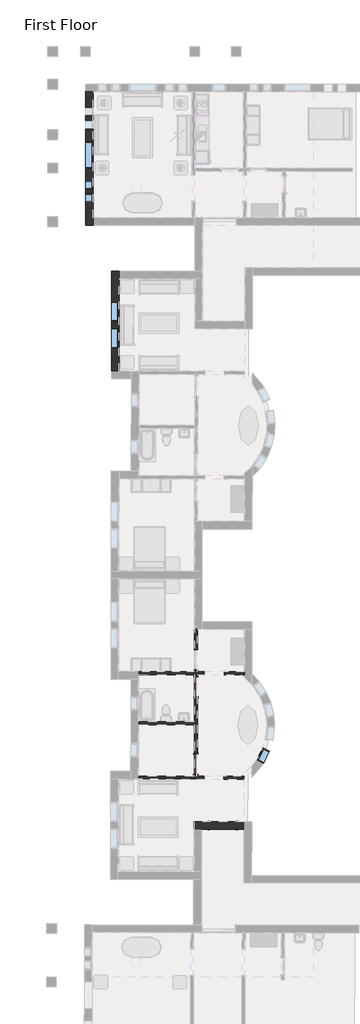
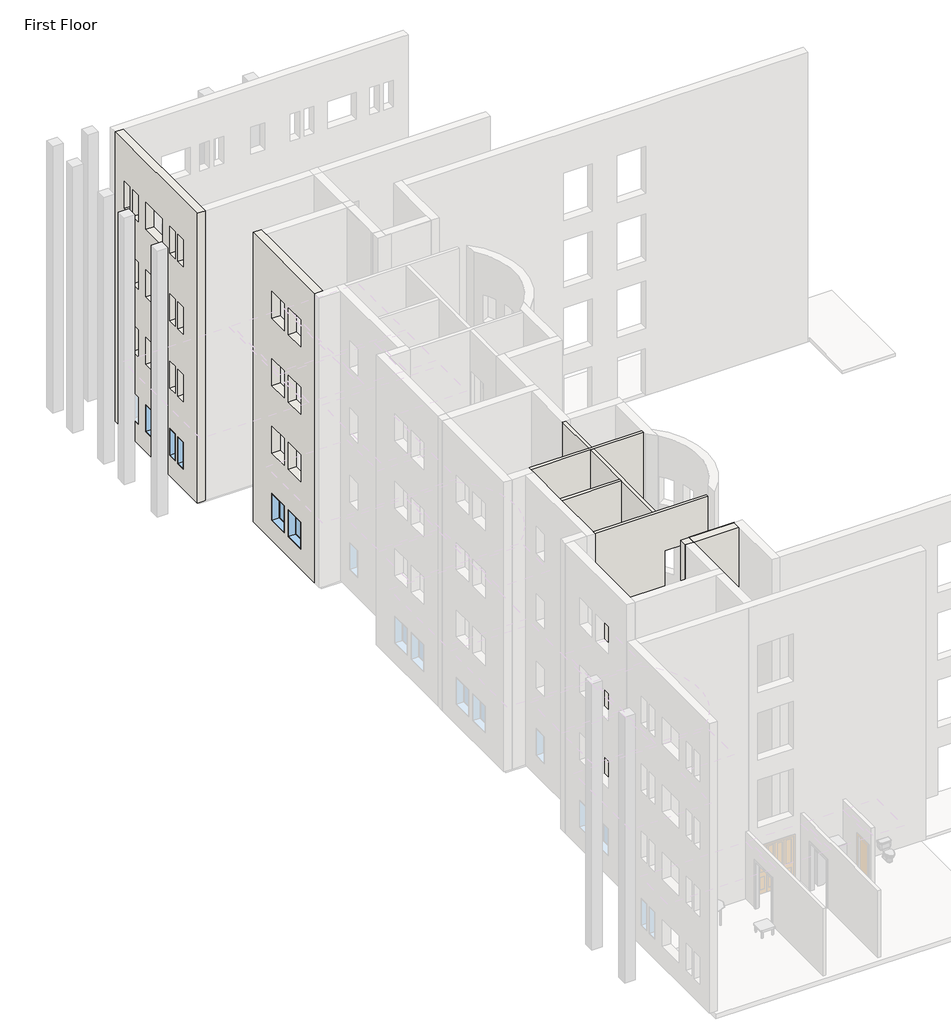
# One storey, part 6 of 22: 8 walls, 6 windows, 3 doors.
"""IFC4 building model written with IfcOpenShell, lengths in millimetres."""

from ifc_helpers import new_model, si_unit, origin, origin_with_axes, place, context, project, spatial, polyline, outline, extrude, faceted_brep, transform, mapped, element, save
from components import m_bifold_4_panel_1220_x_2134mm_cde6dea2, m_single_flush_0915_x_2134mm_ab9b6334, m_single_flush_0915_x_2134mm_08e0827a, m_fixed_0406_x_1220mm_57fee329, m_fixed_0610_x_1220mm_2c28ef1d, m_fixed_0915_x_1220mm_bde29121, m_fixed_1220_x_1220mm_8f5f8ad3

model = new_model("IFC4")

# Units and contexts
model_context = context("Model", 3, world=origin())
ifc_project = project(units=[si_unit("LENGTHUNIT", "METRE", prefix="MILLI")], contexts=[model_context])

# Site, building, storey
site = spatial("IfcSite", under=ifc_project)
building = spatial("IfcBuilding", under=site)
storey = spatial("IfcBuildingStorey", under=building, Name="First Floor", Elevation=0.0)

# Doors
placement = place(None, origin())
m_bifold_4_panel_1220_x_2134mm_shape = m_bifold_4_panel_1220_x_2134mm_cde6dea2(model_context)
element("IfcDoor", 1, ObjectType="M_Bifold-4 Panel : 1220 x 2134mm", at=placement, inside=storey, context=model_context, shape_type="MappedRepresentation", body=[
    mapped(m_bifold_4_panel_1220_x_2134mm_shape, transform((-28896.4341492, -31100.6581424, 0.0), x_axis=(-0.9999989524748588, 0.0014474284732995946, 0.0), y_axis=(-0.0014474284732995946, -0.9999989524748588, 0.0), z_axis=(0.0, 0.0, 1.0))),
])
m_single_flush_0915_x_2134mm_shape = m_single_flush_0915_x_2134mm_ab9b6334(model_context)
element("IfcDoor", 2, ObjectType="M_Single-Flush : 0915 x 2134mm", at=placement, inside=storey, context=model_context, shape_type="MappedRepresentation", body=[
    mapped(m_single_flush_0915_x_2134mm_shape, transform((-30135.3858371, -28302.8619177, 0.0), x_axis=(-0.0014474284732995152, -0.9999989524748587, 0.0), y_axis=(0.9999989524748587, -0.0014474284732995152, 0.0), z_axis=(0.0, 0.0, 1.0))),
])
m_single_flush_0915_x_2134mm_2_shape = m_single_flush_0915_x_2134mm_08e0827a(model_context)
element("IfcDoor", 3, ObjectType="M_Single-Flush : 0915 x 2134mm", at=placement, inside=storey, context=model_context, shape_type="MappedRepresentation", body=[
    mapped(m_single_flush_0915_x_2134mm_2_shape, transform((-30130.249999, -24754.6156346, 0.0), x_axis=(0.0014474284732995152, 0.9999989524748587, 0.0), y_axis=(-0.9999989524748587, 0.0014474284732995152, 0.0), z_axis=(0.0, 0.0, 1.0))),
])

# Walls
element("IfcWall", 4, ObjectType="Exterior - Brick on Mtl. Stud", at=placement, inside=storey, context=model_context, shape_type="Brep", body=[
    faceted_brep([(-35170.8416203, 2406.1188386, 0.0), (-35170.8416203, -3504.8811614, 0.0), (-35170.8416203, -3689.8811614, 0.0), (-35170.8416203, -3689.8811614, 13107.0), (-35170.8416203, 2406.1188386, 13107.0), (-35170.8416203, -1076.8811614, 915.0), (-35170.8416203, 143.1188386, 915.0), (-35170.8416203, 143.1188386, 2135.0), (-35170.8416203, -1076.8811614, 2135.0), (-35170.8416203, 701.1188386, 915.0), (-35170.8416203, 1107.1188386, 915.0), (-35170.8416203, 1107.1188386, 2135.0), (-35170.8416203, 701.1188386, 2135.0), (-35170.8416203, 1311.1188386, 915.0), (-35170.8416203, 1717.1188386, 915.0), (-35170.8416203, 1717.1188386, 2135.0), (-35170.8416203, 1311.1188386, 2135.0), (-35170.8416203, -1634.8811614, 915.0), (-35170.8416203, -1634.8811614, 2135.0), (-35170.8416203, -2040.8811614, 2135.0), (-35170.8416203, -2040.8811614, 915.0), (-35170.8416203, -2244.8811614, 915.0), (-35170.8416203, -2244.8811614, 2135.0), (-35170.8416203, -2650.8811614, 2135.0), (-35170.8416203, -2650.8811614, 915.0), (-35170.8416203, -1634.8811614, 10059.0), (-35170.8416203, -1634.8811614, 11279.0), (-35170.8416203, -2040.8811614, 11279.0), (-35170.8416203, -2040.8811614, 10059.0), (-35170.8416203, -2244.8811614, 10059.0), (-35170.8416203, -2244.8811614, 11279.0), (-35170.8416203, -2650.8811614, 11279.0), (-35170.8416203, -2650.8811614, 10059.0), (-35170.8416203, 701.1188386, 10059.0), (-35170.8416203, 1107.1188386, 10059.0), (-35170.8416203, 1107.1188386, 11279.0), (-35170.8416203, 701.1188386, 11279.0), (-35170.8416203, 1311.1188386, 10059.0), (-35170.8416203, 1717.1188386, 10059.0), (-35170.8416203, 1717.1188386, 11279.0), (-35170.8416203, 1311.1188386, 11279.0), (-35170.8416203, -1076.8811614, 10059.0), (-35170.8416203, 143.1188386, 10059.0), (-35170.8416203, 143.1188386, 11279.0), (-35170.8416203, -1076.8811614, 11279.0), (-35170.8416203, -1634.8811614, 3963.0), (-35170.8416203, -1634.8811614, 5183.0), (-35170.8416203, -2040.8811614, 5183.0), (-35170.8416203, -2040.8811614, 3963.0), (-35170.8416203, -2244.8811614, 3963.0), (-35170.8416203, -2244.8811614, 5183.0), (-35170.8416203, -2650.8811614, 5183.0), (-35170.8416203, -2650.8811614, 3963.0), (-35170.8416203, 701.1188386, 3963.0), (-35170.8416203, 1107.1188386, 3963.0), (-35170.8416203, 1107.1188386, 5183.0), (-35170.8416203, 701.1188386, 5183.0), (-35170.8416203, 1311.1188386, 3963.0), (-35170.8416203, 1717.1188386, 3963.0), (-35170.8416203, 1717.1188386, 5183.0), (-35170.8416203, 1311.1188386, 5183.0), (-35170.8416203, -1076.8811614, 3963.0), (-35170.8416203, 143.1188386, 3963.0), (-35170.8416203, 143.1188386, 5183.0), (-35170.8416203, -1076.8811614, 5183.0), (-35170.8416203, -1634.8811614, 7011.0), (-35170.8416203, -1634.8811614, 8231.0), (-35170.8416203, -2040.8811614, 8231.0), (-35170.8416203, -2040.8811614, 7011.0), (-35170.8416203, -2244.8811614, 7011.0), (-35170.8416203, -2244.8811614, 8231.0), (-35170.8416203, -2650.8811614, 8231.0), (-35170.8416203, -2650.8811614, 7011.0), (-35170.8416203, 701.1188386, 7011.0), (-35170.8416203, 1107.1188386, 7011.0), (-35170.8416203, 1107.1188386, 8231.0), (-35170.8416203, 701.1188386, 8231.0), (-35170.8416203, 1311.1188386, 7011.0), (-35170.8416203, 1717.1188386, 7011.0), (-35170.8416203, 1717.1188386, 8231.0), (-35170.8416203, 1311.1188386, 8231.0), (-35170.8416203, -1076.8811614, 7011.0), (-35170.8416203, 143.1188386, 7011.0), (-35170.8416203, 143.1188386, 8231.0), (-35170.8416203, -1076.8811614, 8231.0), (-34820.8416203, 2406.1188386, 0.0), (-34820.8416203, 2406.1188386, 13107.0), (-34820.8416203, -3339.8811614, 13107.0), (-34820.8416203, -3689.8811614, 13107.0), (-34820.8416203, -3689.8811614, 0.0), (-34820.8416203, -3504.8811614, 0.0), (-34820.8416203, -3339.8811614, 0.0), (-34820.8416203, -1076.8811614, 915.0), (-34820.8416203, -1076.8811614, 2135.0), (-34820.8416203, 143.1188386, 2135.0), (-34820.8416203, 143.1188386, 915.0), (-34820.8416203, 701.1188386, 915.0), (-34820.8416203, 701.1188386, 2135.0), (-34820.8416203, 1107.1188386, 2135.0), (-34820.8416203, 1107.1188386, 915.0), (-34820.8416203, 1311.1188386, 915.0), (-34820.8416203, 1311.1188386, 2135.0), (-34820.8416203, 1717.1188386, 2135.0), (-34820.8416203, 1717.1188386, 915.0), (-34820.8416203, -1634.8811614, 915.0), (-34820.8416203, -2040.8811614, 915.0), (-34820.8416203, -2040.8811614, 2135.0), (-34820.8416203, -1634.8811614, 2135.0), (-34820.8416203, -2244.8811614, 915.0), (-34820.8416203, -2650.8811614, 915.0), (-34820.8416203, -2650.8811614, 2135.0), (-34820.8416203, -2244.8811614, 2135.0), (-34820.8416203, -1634.8811614, 10059.0), (-34820.8416203, -2040.8811614, 10059.0), (-34820.8416203, -2040.8811614, 11279.0), (-34820.8416203, -1634.8811614, 11279.0), (-34820.8416203, -2244.8811614, 10059.0), (-34820.8416203, -2650.8811614, 10059.0), (-34820.8416203, -2650.8811614, 11279.0), (-34820.8416203, -2244.8811614, 11279.0), (-34820.8416203, 701.1188386, 10059.0), (-34820.8416203, 701.1188386, 11279.0), (-34820.8416203, 1107.1188386, 11279.0), (-34820.8416203, 1107.1188386, 10059.0), (-34820.8416203, 1311.1188386, 10059.0), (-34820.8416203, 1311.1188386, 11279.0), (-34820.8416203, 1717.1188386, 11279.0), (-34820.8416203, 1717.1188386, 10059.0), (-34820.8416203, -1076.8811614, 10059.0), (-34820.8416203, -1076.8811614, 11279.0), (-34820.8416203, 143.1188386, 11279.0), (-34820.8416203, 143.1188386, 10059.0), (-34820.8416203, -1634.8811614, 3963.0), (-34820.8416203, -2040.8811614, 3963.0), (-34820.8416203, -2040.8811614, 5183.0), (-34820.8416203, -1634.8811614, 5183.0), (-34820.8416203, -2244.8811614, 3963.0), (-34820.8416203, -2650.8811614, 3963.0), (-34820.8416203, -2650.8811614, 5183.0), (-34820.8416203, -2244.8811614, 5183.0), (-34820.8416203, 701.1188386, 3963.0), (-34820.8416203, 701.1188386, 5183.0), (-34820.8416203, 1107.1188386, 5183.0), (-34820.8416203, 1107.1188386, 3963.0), (-34820.8416203, 1311.1188386, 3963.0), (-34820.8416203, 1311.1188386, 5183.0), (-34820.8416203, 1717.1188386, 5183.0), (-34820.8416203, 1717.1188386, 3963.0), (-34820.8416203, -1076.8811614, 3963.0), (-34820.8416203, -1076.8811614, 5183.0), (-34820.8416203, 143.1188386, 5183.0), (-34820.8416203, 143.1188386, 3963.0), (-34820.8416203, -1634.8811614, 7011.0), (-34820.8416203, -2040.8811614, 7011.0), (-34820.8416203, -2040.8811614, 8231.0), (-34820.8416203, -1634.8811614, 8231.0), (-34820.8416203, -2244.8811614, 7011.0), (-34820.8416203, -2650.8811614, 7011.0), (-34820.8416203, -2650.8811614, 8231.0), (-34820.8416203, -2244.8811614, 8231.0), (-34820.8416203, 701.1188386, 7011.0), (-34820.8416203, 701.1188386, 8231.0), (-34820.8416203, 1107.1188386, 8231.0), (-34820.8416203, 1107.1188386, 7011.0), (-34820.8416203, 1311.1188386, 7011.0), (-34820.8416203, 1311.1188386, 8231.0), (-34820.8416203, 1717.1188386, 8231.0), (-34820.8416203, 1717.1188386, 7011.0), (-34820.8416203, -1076.8811614, 7011.0), (-34820.8416203, -1076.8811614, 8231.0), (-34820.8416203, 143.1188386, 8231.0), (-34820.8416203, 143.1188386, 7011.0), (-34985.8416203, 2406.1188386, 0.0), (-34985.8416203, -3689.8811614, 0.0), (-34985.8416203, -3504.8811614, 0.0)], [[[0, 1, 2, 3, 4], [5, 6, 7, 8], [9, 10, 11, 12], [13, 14, 15, 16], [17, 18, 19, 20], [21, 22, 23, 24], [25, 26, 27, 28], [29, 30, 31, 32], [33, 34, 35, 36], [37, 38, 39, 40], [41, 42, 43, 44], [45, 46, 47, 48], [49, 50, 51, 52], [53, 54, 55, 56], [57, 58, 59, 60], [61, 62, 63, 64], [65, 66, 67, 68], [69, 70, 71, 72], [73, 74, 75, 76], [77, 78, 79, 80], [81, 82, 83, 84]], [[85, 86, 87, 88, 89, 90, 91], [92, 93, 94, 95], [96, 97, 98, 99], [100, 101, 102, 103], [104, 105, 106, 107], [108, 109, 110, 111], [112, 113, 114, 115], [116, 117, 118, 119], [120, 121, 122, 123], [124, 125, 126, 127], [128, 129, 130, 131], [132, 133, 134, 135], [136, 137, 138, 139], [140, 141, 142, 143], [144, 145, 146, 147], [148, 149, 150, 151], [152, 153, 154, 155], [156, 157, 158, 159], [160, 161, 162, 163], [164, 165, 166, 167], [168, 169, 170, 171]], [[4, 3, 88, 87, 86]], [[0, 4, 86, 85, 172]], [[3, 2, 173, 89, 88]], [[93, 92, 5, 8]], [[94, 93, 8, 7]], [[95, 94, 7, 6]], [[92, 95, 6, 5]], [[97, 96, 9, 12]], [[98, 97, 12, 11]], [[99, 98, 11, 10]], [[96, 99, 10, 9]], [[101, 100, 13, 16]], [[102, 101, 16, 15]], [[103, 102, 15, 14]], [[100, 103, 14, 13]], [[18, 17, 104, 107]], [[19, 18, 107, 106]], [[20, 19, 106, 105]], [[17, 20, 105, 104]], [[22, 21, 108, 111]], [[23, 22, 111, 110]], [[24, 23, 110, 109]], [[21, 24, 109, 108]], [[90, 89, 173, 174]], [[1, 0, 172, 174]], [[2, 1, 174, 173]], [[26, 25, 112, 115]], [[27, 26, 115, 114]], [[28, 27, 114, 113]], [[25, 28, 113, 112]], [[30, 29, 116, 119]], [[31, 30, 119, 118]], [[32, 31, 118, 117]], [[29, 32, 117, 116]], [[121, 120, 33, 36]], [[122, 121, 36, 35]], [[123, 122, 35, 34]], [[120, 123, 34, 33]], [[125, 124, 37, 40]], [[126, 125, 40, 39]], [[127, 126, 39, 38]], [[124, 127, 38, 37]], [[129, 128, 41, 44]], [[130, 129, 44, 43]], [[131, 130, 43, 42]], [[128, 131, 42, 41]], [[46, 45, 132, 135]], [[47, 46, 135, 134]], [[48, 47, 134, 133]], [[45, 48, 133, 132]], [[50, 49, 136, 139]], [[51, 50, 139, 138]], [[52, 51, 138, 137]], [[49, 52, 137, 136]], [[141, 140, 53, 56]], [[142, 141, 56, 55]], [[143, 142, 55, 54]], [[140, 143, 54, 53]], [[145, 144, 57, 60]], [[146, 145, 60, 59]], [[147, 146, 59, 58]], [[144, 147, 58, 57]], [[149, 148, 61, 64]], [[150, 149, 64, 63]], [[151, 150, 63, 62]], [[148, 151, 62, 61]], [[66, 65, 152, 155]], [[67, 66, 155, 154]], [[68, 67, 154, 153]], [[65, 68, 153, 152]], [[70, 69, 156, 159]], [[71, 70, 159, 158]], [[72, 71, 158, 157]], [[69, 72, 157, 156]], [[161, 160, 73, 76]], [[162, 161, 76, 75]], [[163, 162, 75, 74]], [[160, 163, 74, 73]], [[165, 164, 77, 80]], [[166, 165, 80, 79]], [[167, 166, 79, 78]], [[164, 167, 78, 77]], [[169, 168, 81, 84]], [[170, 169, 84, 83]], [[171, 170, 83, 82]], [[168, 171, 82, 81]], [[172, 85, 91, 90, 174]]]),
])
element("IfcWall", 5, ObjectType="Exterior - Brick on Mtl. Stud", at=placement, inside=storey, context=model_context, shape_type="Brep", body=[
    faceted_brep([(-33644.3964507, -10344.7640643, 0.0), (-33638.2854077, -6122.7684869, 0.0), (-33638.046582, -5957.7686598, 0.0), (-33637.7788078, -5772.7688535, 0.0), (-33637.7788078, -5772.7688535, 13107.0), (-33638.2854077, -6122.7684869, 13107.0), (-33644.3964507, -10344.7640643, 13107.0), (-33641.5610831, -8385.8661163, 915.0), (-33642.8854802, -9300.8651578, 915.0), (-33642.8854802, -9300.8651578, 2135.0), (-33641.5610831, -8385.8661163, 2135.0), (-33639.7963783, -7166.6673934, 915.0), (-33641.1207754, -8081.6664349, 915.0), (-33641.1207754, -8081.6664349, 2135.0), (-33639.7963783, -7166.6673934, 2135.0), (-33639.7963783, -7166.6673934, 10059.0), (-33641.1207754, -8081.6664349, 10059.0), (-33641.1207754, -8081.6664349, 11279.0), (-33639.7963783, -7166.6673934, 11279.0), (-33641.5610831, -8385.8661163, 10059.0), (-33642.8854802, -9300.8651578, 10059.0), (-33642.8854802, -9300.8651578, 11279.0), (-33641.5610831, -8385.8661163, 11279.0), (-33639.7963783, -7166.6673934, 3963.0), (-33641.1207754, -8081.6664349, 3963.0), (-33641.1207754, -8081.6664349, 5183.0), (-33639.7963783, -7166.6673934, 5183.0), (-33641.5610831, -8385.8661163, 3963.0), (-33642.8854802, -9300.8651578, 3963.0), (-33642.8854802, -9300.8651578, 5183.0), (-33641.5610831, -8385.8661163, 5183.0), (-33639.7963783, -7166.6673934, 7011.0), (-33641.1207754, -8081.6664349, 7011.0), (-33641.1207754, -8081.6664349, 8231.0), (-33639.7963783, -7166.6673934, 8231.0), (-33641.5610831, -8385.8661163, 7011.0), (-33642.8854802, -9300.8651578, 7011.0), (-33642.8854802, -9300.8651578, 8231.0), (-33641.5610831, -8385.8661163, 8231.0), (-33994.3960841, -10344.2574643, 0.0), (-33994.3960841, -10344.2574643, 13107.0), (-33987.7784411, -5772.2622536, 13107.0), (-33987.7784411, -5772.2622536, 0.0), (-33988.0462154, -5957.2620598, 0.0), (-33991.5607165, -8385.3595163, 915.0), (-33991.5607165, -8385.3595163, 2135.0), (-33992.8851135, -9300.3585578, 2135.0), (-33992.8851135, -9300.3585578, 915.0), (-33989.7960117, -7166.1607934, 915.0), (-33989.7960117, -7166.1607934, 2135.0), (-33991.1204087, -8081.1598349, 2135.0), (-33991.1204087, -8081.1598349, 915.0), (-33989.7960117, -7166.1607934, 10059.0), (-33989.7960117, -7166.1607934, 11279.0), (-33991.1204087, -8081.1598349, 11279.0), (-33991.1204087, -8081.1598349, 10059.0), (-33991.5607165, -8385.3595163, 10059.0), (-33991.5607165, -8385.3595163, 11279.0), (-33992.8851135, -9300.3585578, 11279.0), (-33992.8851135, -9300.3585578, 10059.0), (-33989.7960117, -7166.1607934, 3963.0), (-33989.7960117, -7166.1607934, 5183.0), (-33991.1204087, -8081.1598349, 5183.0), (-33991.1204087, -8081.1598349, 3963.0), (-33991.5607165, -8385.3595163, 3963.0), (-33991.5607165, -8385.3595163, 5183.0), (-33992.8851135, -9300.3585578, 5183.0), (-33992.8851135, -9300.3585578, 3963.0), (-33989.7960117, -7166.1607934, 7011.0), (-33989.7960117, -7166.1607934, 8231.0), (-33991.1204087, -8081.1598349, 8231.0), (-33991.1204087, -8081.1598349, 7011.0), (-33991.5607165, -8385.3595163, 7011.0), (-33991.5607165, -8385.3595163, 8231.0), (-33992.8851135, -9300.3585578, 8231.0), (-33992.8851135, -9300.3585578, 7011.0), (-33809.3962779, -10344.5252386, 0.0), (-33802.7786349, -5772.5300278, 0.0), (-33803.0464092, -5957.5298341, 0.0)], [[[0, 1, 2, 3, 4, 5, 6], [7, 8, 9, 10], [11, 12, 13, 14], [15, 16, 17, 18], [19, 20, 21, 22], [23, 24, 25, 26], [27, 28, 29, 30], [31, 32, 33, 34], [35, 36, 37, 38]], [[39, 40, 41, 42, 43], [44, 45, 46, 47], [48, 49, 50, 51], [52, 53, 54, 55], [56, 57, 58, 59], [60, 61, 62, 63], [64, 65, 66, 67], [68, 69, 70, 71], [72, 73, 74, 75]], [[6, 5, 4, 41, 40]], [[0, 6, 40, 39, 76]], [[4, 3, 77, 42, 41]], [[45, 44, 7, 10]], [[46, 45, 10, 9]], [[47, 46, 9, 8]], [[44, 47, 8, 7]], [[49, 48, 11, 14]], [[50, 49, 14, 13]], [[51, 50, 13, 12]], [[48, 51, 12, 11]], [[76, 39, 43, 78]], [[3, 2, 78, 77]], [[78, 43, 42, 77]], [[2, 1, 0, 76, 78]], [[53, 52, 15, 18]], [[54, 53, 18, 17]], [[55, 54, 17, 16]], [[52, 55, 16, 15]], [[57, 56, 19, 22]], [[58, 57, 22, 21]], [[59, 58, 21, 20]], [[56, 59, 20, 19]], [[61, 60, 23, 26]], [[62, 61, 26, 25]], [[63, 62, 25, 24]], [[60, 63, 24, 23]], [[65, 64, 27, 30]], [[66, 65, 30, 29]], [[67, 66, 29, 28]], [[64, 67, 28, 27]], [[69, 68, 31, 34]], [[70, 69, 34, 33]], [[71, 70, 33, 32]], [[68, 71, 32, 31]], [[73, 72, 35, 38]], [[74, 73, 38, 37]], [[75, 74, 37, 36]], [[72, 75, 36, 35]]]),
])
element("IfcWall", 6, ObjectType="Exterior - Brick on Mtl. Stud", at=placement, inside=storey, context=model_context, shape_type="Brep", body=[
    faceted_brep([(-27927.6813484, -30929.862752, 0.0), (-27928.1859187, -30929.8612914, 0.0), (-30213.6717698, -30923.245116, 0.0), (-30213.6717698, -30923.245116, 13107.0), (-27928.1859187, -30929.8612914, 13107.0), (-27927.6813484, -30929.862752, 13107.0), (-27928.6945472, -31279.8612855, 0.0), (-27928.6945472, -31279.8612855, 13107.0), (-29864.6864352, -31274.2568483, 13107.0), (-30214.6849687, -31273.2436495, 13107.0), (-30214.6849687, -31273.2436495, 0.0), (-29864.6864352, -31274.2568483, 0.0)], [[[0, 1, 2, 3, 4, 5]], [[6, 7, 8, 9, 10, 11]], [[2, 1, 0, 6, 11, 10]], [[5, 4, 3, 9, 8, 7]], [[0, 5, 7, 6]], [[3, 2, 10, 9]]]),
])
element("IfcWall", 7, ObjectType="Exterior - Brick on Mtl. Stud", at=placement, inside=storey, context=model_context, shape_type="Brep", body=[
    faceted_brep([(-27928.6864352, -31277.0590728, 13107.0), (-29864.6864352, -31274.2568483, 13107.0), (-29864.6864352, -31274.2568483, 0.0), (-29506.6868102, -31274.7750277, 0.0), (-29506.6868102, -31274.7750277, 2134.0), (-28286.6880882, -31276.5408905, 2134.0), (-28286.6880882, -31276.5408905, 0.0), (-27928.6864352, -31277.0590728, 0.0), (-29506.6868102, -31274.7750277, 9144.0), (-29506.6868102, -31274.7750277, 11278.0), (-28286.6880882, -31276.5408905, 11278.0), (-28286.6880882, -31276.5408905, 9144.0), (-29506.6868102, -31274.7750277, 3048.0), (-29506.6868102, -31274.7750277, 5182.0), (-28286.6880882, -31276.5408905, 5182.0), (-28286.6880882, -31276.5408905, 3048.0), (-29506.6868102, -31274.7750277, 6096.0), (-29506.6868102, -31274.7750277, 8230.0), (-28286.6880882, -31276.5408905, 8230.0), (-28286.6880882, -31276.5408905, 6096.0), (-29863.6732353, -30924.2579482, 13107.0), (-27927.6732353, -30927.0601727, 13107.0), (-27927.6732353, -30927.0601727, 0.0), (-28286.1814882, -30926.5412571, 0.0), (-28286.1814882, -30926.5412571, 2134.0), (-29506.1802102, -30924.7753944, 2134.0), (-29506.1802102, -30924.7753944, 0.0), (-29863.6732353, -30924.2579482, 0.0), (-29506.1802102, -30924.7753944, 9144.0), (-28286.1814882, -30926.5412571, 9144.0), (-28286.1814882, -30926.5412571, 11278.0), (-29506.1802102, -30924.7753944, 11278.0), (-29506.1802102, -30924.7753944, 3048.0), (-28286.1814882, -30926.5412571, 3048.0), (-28286.1814882, -30926.5412571, 5182.0), (-29506.1802102, -30924.7753944, 5182.0), (-29506.1802102, -30924.7753944, 6096.0), (-28286.1814882, -30926.5412571, 6096.0), (-28286.1814882, -30926.5412571, 8230.0), (-29506.1802102, -30924.7753944, 8230.0), (-27927.6813484, -30929.862752, 13107.0), (-29506.4190359, -31089.7752215, 0.0), (-28286.4203139, -31091.5410842, 0.0), (-29864.1508867, -31089.2574297, 0.0), (-27928.1508867, -31092.0596542, 0.0), (-27927.6813484, -30929.862752, 0.0)], [[[0, 1, 2, 3, 4, 5, 6, 7], [8, 9, 10, 11], [12, 13, 14, 15], [16, 17, 18, 19]], [[20, 21, 22, 23, 24, 25, 26, 27], [28, 29, 30, 31], [32, 33, 34, 35], [36, 37, 38, 39]], [[1, 0, 40, 21, 20]], [[25, 4, 3, 41, 26]], [[4, 25, 24, 5]], [[5, 24, 23, 42, 6]], [[2, 43, 41, 3]], [[44, 7, 6, 42]], [[9, 8, 28, 31]], [[10, 9, 31, 30]], [[11, 10, 30, 29]], [[8, 11, 29, 28]], [[13, 12, 32, 35]], [[14, 13, 35, 34]], [[15, 14, 34, 33]], [[12, 15, 33, 32]], [[17, 16, 36, 39]], [[18, 17, 39, 38]], [[19, 18, 38, 37]], [[16, 19, 37, 36]], [[0, 7, 44, 45, 22, 21, 40]], [[2, 1, 20, 27, 43]], [[43, 27, 26, 41]], [[22, 45, 44, 42, 23]]]),
])
element("IfcWall", 8, ObjectType="Interior - 135mm Partition (2-hr)", at=placement, inside=storey, context=model_context, shape_type="Brep", body=[
    faceted_brep([(-28833.7610604, -24210.4916396, 2134.0), (-28833.7610604, -24210.4916396, 0.0), (-27918.4620192, -24211.8164709, 0.0), (-27918.4620192, -24211.8164709, 13107.0), (-30061.7097741, -24208.7142698, 13107.0), (-30197.2096321, -24208.5181432, 13107.0), (-32750.056958, -24204.8230755, 13107.0), (-32750.056958, -24204.8230755, 0.0), (-30197.2096321, -24208.5181432, 0.0), (-30061.7097741, -24208.7142698, 0.0), (-29748.7601019, -24209.1672425, 0.0), (-29748.7601019, -24209.1672425, 2134.0), (-29748.7601019, -24209.1672425, 11278.0), (-28833.7610604, -24210.4916396, 11278.0), (-28833.7610604, -24210.4916396, 9144.0), (-29748.7601019, -24209.1672425, 9144.0), (-29748.7601019, -24209.1672425, 5182.0), (-28833.7610604, -24210.4916396, 5182.0), (-28833.7610604, -24210.4916396, 3048.0), (-29748.7601019, -24209.1672425, 3048.0), (-29748.7601019, -24209.1672425, 8230.0), (-28833.7610604, -24210.4916396, 8230.0), (-28833.7610604, -24210.4916396, 6096.0), (-29748.7601019, -24209.1672425, 6096.0), (-27918.2658926, -24076.3166128, 0.0), (-28833.5649338, -24074.9917815, 0.0), (-28833.5649338, -24074.9917815, 2134.0), (-29748.5639753, -24073.6673845, 2134.0), (-29748.5639753, -24073.6673845, 0.0), (-30061.5136475, -24073.2144117, 0.0), (-30197.0135056, -24073.0182852, 0.0), (-32749.8608314, -24069.3232174, 0.0), (-32749.8608314, -24069.3232174, 13107.0), (-30197.0135056, -24073.0182852, 13107.0), (-30061.5136475, -24073.2144117, 13107.0), (-27918.2658926, -24076.3166128, 13107.0), (-29748.5639753, -24073.6673845, 11278.0), (-29748.5639753, -24073.6673845, 9144.0), (-28833.5649338, -24074.9917815, 9144.0), (-28833.5649338, -24074.9917815, 11278.0), (-29748.5639753, -24073.6673845, 5182.0), (-29748.5639753, -24073.6673845, 3048.0), (-28833.5649338, -24074.9917815, 3048.0), (-28833.5649338, -24074.9917815, 5182.0), (-29748.5639753, -24073.6673845, 8230.0), (-29748.5639753, -24073.6673845, 6096.0), (-28833.5649338, -24074.9917815, 6096.0), (-28833.5649338, -24074.9917815, 8230.0)], [[[0, 1, 2, 3, 4, 5, 6, 7, 8, 9, 10, 11], [12, 13, 14, 15], [16, 17, 18, 19], [20, 21, 22, 23]], [[24, 25, 26, 27, 28, 29, 30, 31, 32, 33, 34, 35], [36, 37, 38, 39], [40, 41, 42, 43], [44, 45, 46, 47]], [[2, 1, 25, 24]], [[10, 9, 8, 7, 31, 30, 29, 28]], [[6, 5, 4, 3, 35, 34, 33, 32]], [[7, 6, 32, 31]], [[3, 2, 24, 35]], [[28, 27, 11, 10]], [[26, 25, 1, 0]], [[27, 26, 0, 11]], [[37, 36, 12, 15]], [[38, 37, 15, 14]], [[39, 38, 14, 13]], [[36, 39, 13, 12]], [[41, 40, 16, 19]], [[42, 41, 19, 18]], [[43, 42, 18, 17]], [[40, 43, 17, 16]], [[45, 44, 20, 23]], [[46, 45, 23, 22]], [[47, 46, 22, 21]], [[44, 47, 21, 20]]]),
])
element("IfcWall", 9, ObjectType="Interior - 135mm Partition (2-hr)", at=placement, inside=storey, context=model_context, shape_type="Brep", body=[
    faceted_brep([(-28840.6681891, -28982.4866408, 2134.0), (-28840.6681891, -28982.4866408, 0.0), (-27925.3691479, -28983.8114721, 0.0), (-27925.3691479, -28983.8114721, 13107.0), (-32756.9640866, -28976.8180767, 13107.0), (-32756.9640866, -28976.8180767, 0.0), (-29755.6672306, -28981.1622438, 0.0), (-29755.6672306, -28981.1622438, 2134.0), (-29755.6672306, -28981.1622438, 11278.0), (-28840.6681891, -28982.4866408, 11278.0), (-28840.6681891, -28982.4866408, 9144.0), (-29755.6672306, -28981.1622438, 9144.0), (-29755.6672306, -28981.1622438, 5182.0), (-28840.6681891, -28982.4866408, 5182.0), (-28840.6681891, -28982.4866408, 3048.0), (-29755.6672306, -28981.1622438, 3048.0), (-29755.6672306, -28981.1622438, 8230.0), (-28840.6681891, -28982.4866408, 8230.0), (-28840.6681891, -28982.4866408, 6096.0), (-29755.6672306, -28981.1622438, 6096.0), (-27925.1730213, -28848.311614, 0.0), (-28840.4720625, -28846.9867827, 0.0), (-28840.4720625, -28846.9867827, 2134.0), (-29755.471104, -28845.6623857, 2134.0), (-29755.471104, -28845.6623857, 0.0), (-30068.4207762, -28845.209413, 0.0), (-30203.9206342, -28845.0132864, 0.0), (-32756.7679601, -28841.3182186, 0.0), (-32756.7679601, -28841.3182186, 13107.0), (-30203.9206342, -28845.0132864, 13107.0), (-30068.4207762, -28845.209413, 13107.0), (-27925.1730213, -28848.311614, 13107.0), (-29755.471104, -28845.6623857, 11278.0), (-29755.471104, -28845.6623857, 9144.0), (-28840.4720625, -28846.9867827, 9144.0), (-28840.4720625, -28846.9867827, 11278.0), (-29755.471104, -28845.6623857, 5182.0), (-29755.471104, -28845.6623857, 3048.0), (-28840.4720625, -28846.9867827, 3048.0), (-28840.4720625, -28846.9867827, 5182.0), (-29755.471104, -28845.6623857, 8230.0), (-29755.471104, -28845.6623857, 6096.0), (-28840.4720625, -28846.9867827, 6096.0), (-28840.4720625, -28846.9867827, 8230.0)], [[[0, 1, 2, 3, 4, 5, 6, 7], [8, 9, 10, 11], [12, 13, 14, 15], [16, 17, 18, 19]], [[20, 21, 22, 23, 24, 25, 26, 27, 28, 29, 30, 31], [32, 33, 34, 35], [36, 37, 38, 39], [40, 41, 42, 43]], [[6, 5, 27, 26, 25, 24]], [[2, 1, 21, 20]], [[4, 3, 31, 30, 29, 28]], [[5, 4, 28, 27]], [[3, 2, 20, 31]], [[24, 23, 7, 6]], [[22, 21, 1, 0]], [[23, 22, 0, 7]], [[33, 32, 8, 11]], [[34, 33, 11, 10]], [[35, 34, 10, 9]], [[32, 35, 9, 8]], [[37, 36, 12, 15]], [[38, 37, 15, 14]], [[39, 38, 14, 13]], [[36, 39, 13, 12]], [[41, 40, 16, 19]], [[42, 41, 19, 18]], [[43, 42, 18, 17]], [[40, 43, 17, 16]]]),
])
element("IfcWall", 10, ObjectType="Interior - 135mm Partition (2-hr)", at=placement, inside=storey, context=model_context, shape_type="Brep", body=[
    faceted_brep([(-30194.2007902, -22129.7703208, 13107.0), (-30194.2007902, -22129.7703208, 0.0), (-30195.5718668, -23077.0193285, 0.0), (-30195.5718668, -23077.0193285, 2134.0), (-30196.8962639, -23992.01837, 2134.0), (-30196.8962639, -23992.01837, 0.0), (-30197.0135056, -24073.0182852, 0.0), (-30197.0135056, -24073.0182852, 13107.0), (-30196.8962639, -23992.01837, 9144.0), (-30195.5718668, -23077.0193285, 9144.0), (-30195.5718668, -23077.0193285, 11278.0), (-30196.8962639, -23992.01837, 11278.0), (-30196.8962639, -23992.01837, 3048.0), (-30195.5718668, -23077.0193285, 3048.0), (-30195.5718668, -23077.0193285, 5182.0), (-30196.8962639, -23992.01837, 5182.0), (-30196.8962639, -23992.01837, 6096.0), (-30195.5718668, -23077.0193285, 6096.0), (-30195.5718668, -23077.0193285, 8230.0), (-30196.8962639, -23992.01837, 8230.0), (-30058.7009321, -22129.9664473, 0.0), (-30058.7009321, -22129.9664473, 13107.0), (-30061.5136475, -24073.2144117, 13107.0), (-30061.5136475, -24073.2144117, 0.0), (-30061.3964058, -23992.2144966, 0.0), (-30061.3964058, -23992.2144966, 2134.0), (-30060.0720088, -23077.2154551, 2134.0), (-30060.0720088, -23077.2154551, 0.0), (-30060.0720088, -23077.2154551, 9144.0), (-30061.3964058, -23992.2144966, 9144.0), (-30061.3964058, -23992.2144966, 11278.0), (-30060.0720088, -23077.2154551, 11278.0), (-30060.0720088, -23077.2154551, 3048.0), (-30061.3964058, -23992.2144966, 3048.0), (-30061.3964058, -23992.2144966, 5182.0), (-30060.0720088, -23077.2154551, 5182.0), (-30060.0720088, -23077.2154551, 6096.0), (-30061.3964058, -23992.2144966, 6096.0), (-30061.3964058, -23992.2144966, 8230.0), (-30060.0720088, -23077.2154551, 8230.0)], [[[0, 1, 2, 3, 4, 5, 6, 7], [8, 9, 10, 11], [12, 13, 14, 15], [16, 17, 18, 19]], [[20, 21, 22, 23, 24, 25, 26, 27], [28, 29, 30, 31], [32, 33, 34, 35], [36, 37, 38, 39]], [[1, 20, 27, 2]], [[5, 24, 23, 6]], [[21, 0, 7, 22]], [[1, 0, 21, 20]], [[7, 6, 23, 22]], [[4, 25, 24, 5]], [[25, 4, 3, 26]], [[26, 3, 2, 27]], [[29, 28, 9, 8]], [[30, 29, 8, 11]], [[31, 30, 11, 10]], [[28, 31, 10, 9]], [[33, 32, 13, 12]], [[34, 33, 12, 15]], [[35, 34, 15, 14]], [[32, 35, 14, 13]], [[37, 36, 17, 16]], [[38, 37, 16, 19]], [[39, 38, 19, 18]], [[36, 39, 18, 17]]]),
    faceted_brep([(-30203.9206342, -28845.0132864, 0.0), (-30203.9206342, -28845.0132864, 13107.0), (-30200.5406716, -26509.8657325, 13107.0), (-30200.3445451, -26374.3658745, 13107.0), (-30197.2096321, -24208.5181432, 13107.0), (-30197.2096321, -24208.5181432, 0.0), (-30197.3377295, -24297.0180505, 0.0), (-30197.3377295, -24297.0180505, 2134.0), (-30198.6621266, -25212.0170921, 2134.0), (-30198.6621266, -25212.0170921, 0.0), (-30200.3445451, -26374.3658745, 0.0), (-30200.5406716, -26509.8657325, 0.0), (-30202.4735676, -27845.2643337, 0.0), (-30202.4735676, -27845.2643337, 2134.0), (-30203.7979647, -28760.2633752, 2134.0), (-30203.7979647, -28760.2633752, 0.0), (-30203.7979647, -28760.2633752, 9144.0), (-30202.4735676, -27845.2643337, 9144.0), (-30202.4735676, -27845.2643337, 11278.0), (-30203.7979647, -28760.2633752, 11278.0), (-30198.6621266, -25212.0170921, 9144.0), (-30197.3377295, -24297.0180505, 9144.0), (-30197.3377295, -24297.0180505, 11278.0), (-30198.6621266, -25212.0170921, 11278.0), (-30203.7979647, -28760.2633752, 3048.0), (-30202.4735676, -27845.2643337, 3048.0), (-30202.4735676, -27845.2643337, 5182.0), (-30203.7979647, -28760.2633752, 5182.0), (-30198.6621266, -25212.0170921, 3048.0), (-30197.3377295, -24297.0180505, 3048.0), (-30197.3377295, -24297.0180505, 5182.0), (-30198.6621266, -25212.0170921, 5182.0), (-30203.7979647, -28760.2633752, 6096.0), (-30202.4735676, -27845.2643337, 6096.0), (-30202.4735676, -27845.2643337, 8230.0), (-30203.7979647, -28760.2633752, 8230.0), (-30198.6621266, -25212.0170921, 6096.0), (-30197.3377295, -24297.0180505, 6096.0), (-30197.3377295, -24297.0180505, 8230.0), (-30198.6621266, -25212.0170921, 8230.0), (-30068.4207762, -28845.209413, 13107.0), (-30068.4207762, -28845.209413, 0.0), (-30068.2981066, -28760.4595017, 0.0), (-30068.2981066, -28760.4595017, 2134.0), (-30066.9737096, -27845.4604602, 2134.0), (-30066.9737096, -27845.4604602, 0.0), (-30063.1622685, -25212.2132186, 0.0), (-30063.1622685, -25212.2132186, 2134.0), (-30061.8378715, -24297.2141771, 2134.0), (-30061.8378715, -24297.2141771, 0.0), (-30061.7097741, -24208.7142698, 0.0), (-30061.7097741, -24208.7142698, 13107.0), (-30066.9737096, -27845.4604602, 9144.0), (-30068.2981066, -28760.4595017, 9144.0), (-30068.2981066, -28760.4595017, 11278.0), (-30066.9737096, -27845.4604602, 11278.0), (-30061.8378715, -24297.2141771, 9144.0), (-30063.1622685, -25212.2132186, 9144.0), (-30063.1622685, -25212.2132186, 11278.0), (-30061.8378715, -24297.2141771, 11278.0), (-30066.9737096, -27845.4604602, 3048.0), (-30068.2981066, -28760.4595017, 3048.0), (-30068.2981066, -28760.4595017, 5182.0), (-30066.9737096, -27845.4604602, 5182.0), (-30061.8378715, -24297.2141771, 3048.0), (-30063.1622685, -25212.2132186, 3048.0), (-30063.1622685, -25212.2132186, 5182.0), (-30061.8378715, -24297.2141771, 5182.0), (-30066.9737096, -27845.4604602, 6096.0), (-30068.2981066, -28760.4595017, 6096.0), (-30068.2981066, -28760.4595017, 8230.0), (-30066.9737096, -27845.4604602, 8230.0), (-30061.8378715, -24297.2141771, 6096.0), (-30063.1622685, -25212.2132186, 6096.0), (-30063.1622685, -25212.2132186, 8230.0), (-30061.8378715, -24297.2141771, 8230.0)], [[[0, 1, 2, 3, 4, 5, 6, 7, 8, 9, 10, 11, 12, 13, 14, 15], [16, 17, 18, 19], [20, 21, 22, 23], [24, 25, 26, 27], [28, 29, 30, 31], [32, 33, 34, 35], [36, 37, 38, 39]], [[40, 41, 42, 43, 44, 45, 46, 47, 48, 49, 50, 51], [52, 53, 54, 55], [56, 57, 58, 59], [60, 61, 62, 63], [64, 65, 66, 67], [68, 69, 70, 71], [72, 73, 74, 75]], [[41, 0, 15, 42]], [[49, 6, 5, 50]], [[9, 46, 45, 12, 11, 10]], [[1, 40, 51, 4, 3, 2]], [[1, 0, 41, 40]], [[5, 4, 51, 50]], [[7, 6, 49, 48]], [[8, 7, 48, 47]], [[9, 8, 47, 46]], [[43, 42, 15, 14]], [[44, 43, 14, 13]], [[45, 44, 13, 12]], [[53, 52, 17, 16]], [[54, 53, 16, 19]], [[55, 54, 19, 18]], [[52, 55, 18, 17]], [[21, 20, 57, 56]], [[22, 21, 56, 59]], [[23, 22, 59, 58]], [[20, 23, 58, 57]], [[61, 60, 25, 24]], [[62, 61, 24, 27]], [[63, 62, 27, 26]], [[60, 63, 26, 25]], [[29, 28, 65, 64]], [[30, 29, 64, 67]], [[31, 30, 67, 66]], [[28, 31, 66, 65]], [[69, 68, 33, 32]], [[70, 69, 32, 35]], [[71, 70, 35, 34]], [[68, 71, 34, 33]], [[37, 36, 73, 72]], [[38, 37, 72, 75]], [[39, 38, 75, 74]], [[36, 39, 74, 73]]]),
])
element("IfcWall", 11, ObjectType="Interior - 135mm Partition (2-hr)", at=placement, inside=storey, context=model_context, shape_type="SweptSolid", body=[
    extrude(outline(polyline([(-30200.5406716, -26509.8657325), (-32753.3879975, -26506.1706647), (-32753.1918709, -26370.6708067), (-30200.3445451, -26374.3658745), (-30200.5406716, -26509.8657325)])), origin_with_axes(), (0.0, 0.0, 1.0), 13107.0),
])

# Windows
m_fixed_0406_x_1220mm_shape = m_fixed_0406_x_1220mm_57fee329(model_context)
element("IfcWindow", 12, ObjectType="M_Fixed : 0406 x 1220mm", at=placement, inside=storey, context=model_context, shape_type="MappedRepresentation", body=[
    mapped(m_fixed_0406_x_1220mm_shape, transform((-35008.8416203, -2447.8811614, 0.0), x_axis=(0.0, -1.0, 0.0), y_axis=(1.0, 0.0, 0.0), z_axis=(0.0, 0.0, 1.0))),
])
element("IfcWindow", 13, ObjectType="M_Fixed : 0406 x 1220mm", at=placement, inside=storey, context=model_context, shape_type="MappedRepresentation", body=[
    mapped(m_fixed_0406_x_1220mm_shape, transform((-35008.8416203, -1837.8811614, 0.0), x_axis=(0.0, -1.0, 0.0), y_axis=(1.0, 0.0, 0.0), z_axis=(0.0, 0.0, 1.0))),
])
m_fixed_0610_x_1220mm_shape = m_fixed_0610_x_1220mm_2c28ef1d(model_context)
element("IfcWindow", 14, ObjectType="M_Fixed : 0610 x 1220mm", at=placement, inside=storey, context=model_context, shape_type="MappedRepresentation", body=[
    mapped(m_fixed_0610_x_1220mm_shape, transform((-27047.2502691, -27908.2496385, 0.0), x_axis=(0.4532525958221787, 0.8913821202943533, 0.0), y_axis=(-0.8913821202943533, 0.4532525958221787, 0.0), z_axis=(0.0, 0.0, 1.0))),
])
m_fixed_0915_x_1220mm_shape = m_fixed_0915_x_1220mm_bde29121(model_context)
element("IfcWindow", 15, ObjectType="M_Fixed : 0915 x 1220mm", at=placement, inside=storey, context=model_context, shape_type="MappedRepresentation", body=[
    mapped(m_fixed_0915_x_1220mm_shape, transform((-33830.2230847, -8843.0935205, 0.0), x_axis=(-0.0014474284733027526, -0.9999989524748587, 0.0), y_axis=(0.9999989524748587, -0.0014474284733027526, 0.0), z_axis=(0.0, 0.0, 1.0))),
])
element("IfcWindow", 16, ObjectType="M_Fixed : 0915 x 1220mm", at=placement, inside=storey, context=model_context, shape_type="MappedRepresentation", body=[
    mapped(m_fixed_0915_x_1220mm_shape, transform((-33828.4583799, -7623.8947976, 0.0), x_axis=(-0.0014474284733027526, -0.9999989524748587, 0.0), y_axis=(0.9999989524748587, -0.0014474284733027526, 0.0), z_axis=(0.0, 0.0, 1.0))),
])
m_fixed_1220_x_1220mm_shape = m_fixed_1220_x_1220mm_8f5f8ad3(model_context)
element("IfcWindow", 17, ObjectType="M_Fixed : 1220 x 1220mm", at=placement, inside=storey, context=model_context, shape_type="MappedRepresentation", body=[
    mapped(m_fixed_1220_x_1220mm_shape, transform((-35008.8416203, -466.8811614, 0.0), x_axis=(0.0, 1.0, 0.0), y_axis=(-1.0, 0.0, 0.0), z_axis=(0.0, 0.0, 1.0))),
])

save(model, "model.ifc")
